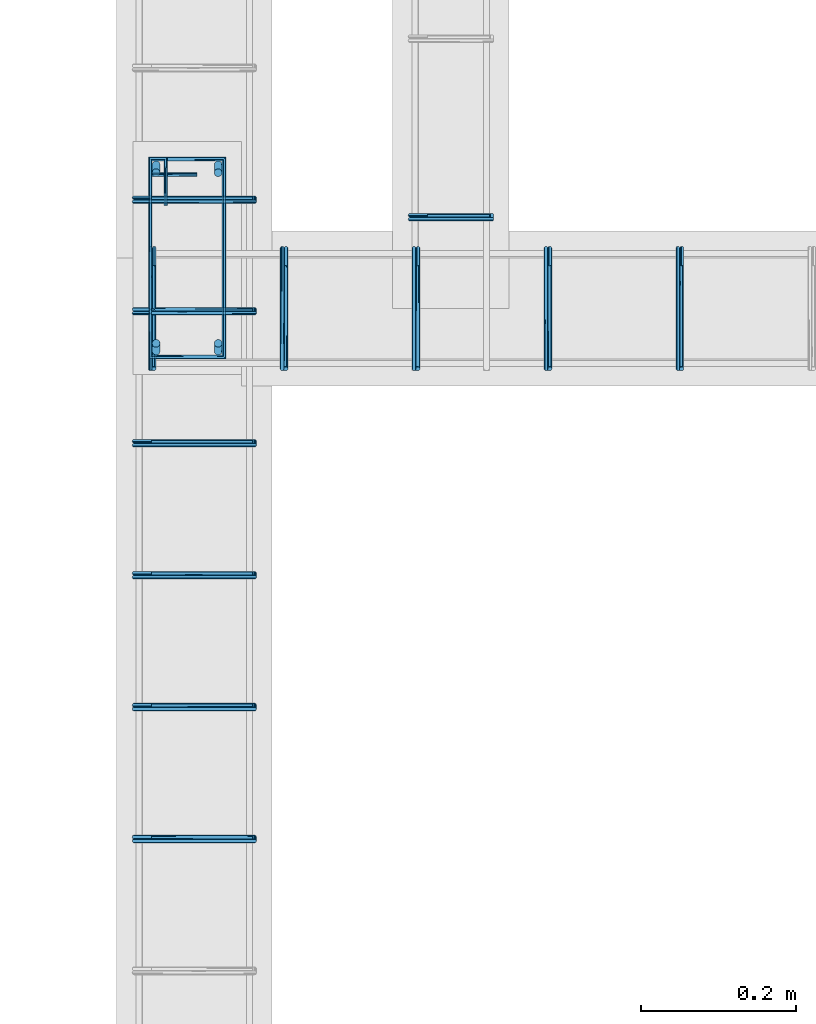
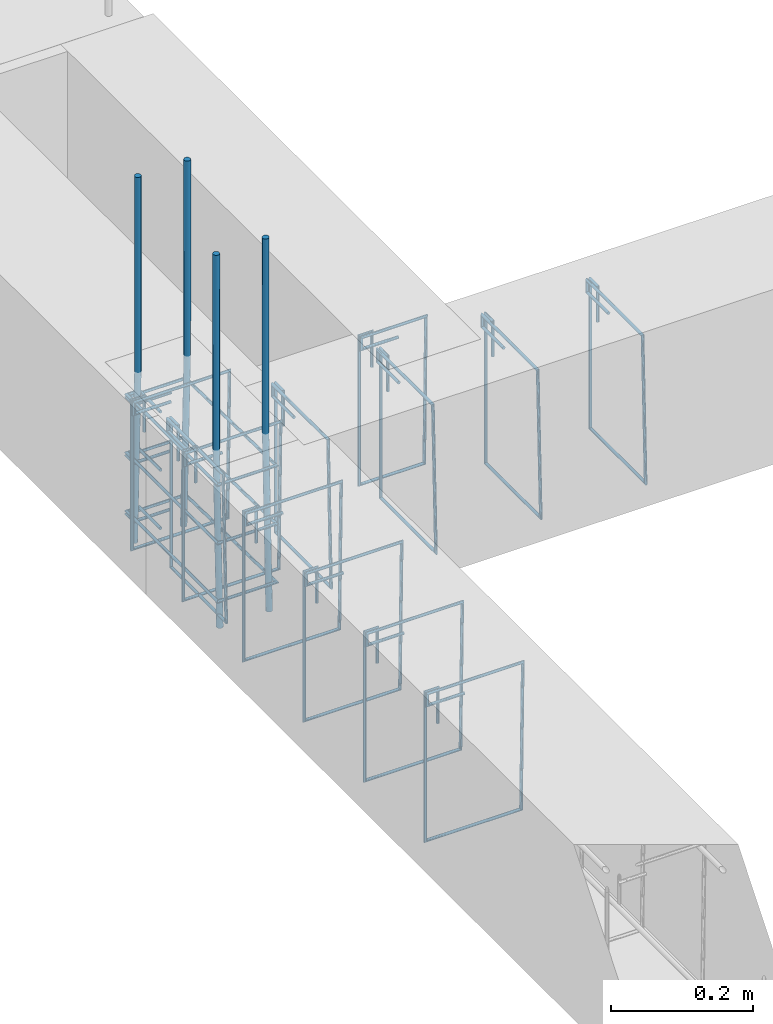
# One storey, part 136 of 150: 19 reinforcing bars.
"""IFC4 building model written with IfcOpenShell, lengths in centimetres."""

from ifc_helpers import new_model, entity, si_unit, derived_unit, frame, origin_with_axes, place, context, project, spatial, source, transform, mapped, element, save


model = new_model("IFC4")

# Units and contexts
model_context = context("Model", 3, precision=1e-05, world=origin_with_axes(), identifier="Body")
ifc_project = project(units=[si_unit("LENGTHUNIT", "METRE", prefix="CENTI"), si_unit("VOLUMEUNIT", "CUBIC_METRE"), si_unit("AREAUNIT", "SQUARE_METRE"), si_unit("POWERUNIT", "WATT"), si_unit("LUMINOUSFLUXUNIT", "LUMEN"), si_unit("ELECTRICCURRENTUNIT", "AMPERE"), si_unit("PRESSUREUNIT", "PASCAL", prefix="KILO"), si_unit("MASSUNIT", "GRAM", prefix="KILO"), si_unit("PLANEANGLEUNIT", "RADIAN"), derived_unit("VOLUMETRICFLOWRATEUNIT", [(si_unit("LENGTHUNIT", "METRE"), 3), (si_unit("TIMEUNIT", "SECOND"), -1)])], contexts=[model_context])

# Site, building, storey
site_placement = place(None, frame((-4000.0, 0.0, 0.0), z_axis=(0.0, 0.0, 1.0), x_axis=(1.0, 0.0, 0.0)))
site = spatial("IfcSite", under=ifc_project, at=site_placement, Name="PADRÃO")
building_placement = place(site_placement, frame((0.0, 0.0, -14.0)))
building = spatial("IfcBuilding", under=site, at=building_placement, Name="CRECHE PRÉ-ESCOLA TIPO 2")
placement = place(building_placement, origin_with_axes())
storey_placement = place(placement, frame((0.0, 0.0, 30.0), z_axis=(0.0, 0.0, 1.0), x_axis=(1.0, 0.0, 0.0)))
storey = spatial("IfcBuildingStorey", under=building, at=storey_placement, Name="VIGA BALDRAME", CompositionType="ELEMENT", Elevation=16.0)

# Reinforcing bars
shared_shape_1 = source(origin_with_axes(), model_context, "Body", "AdvancedSweptSolid", [
    entity("IfcSweptDiskSolid", entity("IfcCompositeCurve", [entity("IfcCompositeCurveSegment", "CONTINUOUS", True, entity("IfcPolyline", [entity("IfcCartesianPoint", [4.25, 21.75, 0.0]), entity("IfcCartesianPoint", [4.25, 27.75, 0.0])])), entity("IfcCompositeCurveSegment", "CONTINUOUS", True, entity("IfcPolyline", [entity("IfcCartesianPoint", [4.25, 27.75, 0.0]), entity("IfcCartesianPoint", [2.25, 27.75, 0.0])])), entity("IfcCompositeCurveSegment", "CONTINUOUS", True, entity("IfcPolyline", [entity("IfcCartesianPoint", [2.25, 27.75, 0.0]), entity("IfcCartesianPoint", [2.25, 2.25, 0.0])])), entity("IfcCompositeCurveSegment", "CONTINUOUS", True, entity("IfcPolyline", [entity("IfcCartesianPoint", [2.25, 2.25, 0.0]), entity("IfcCartesianPoint", [11.75, 2.25, 0.0])])), entity("IfcCompositeCurveSegment", "CONTINUOUS", True, entity("IfcPolyline", [entity("IfcCartesianPoint", [11.75, 2.25, 0.0]), entity("IfcCartesianPoint", [11.75, 27.75, -0.5])])), entity("IfcCompositeCurveSegment", "CONTINUOUS", True, entity("IfcPolyline", [entity("IfcCartesianPoint", [11.75, 27.75, -0.5]), entity("IfcCartesianPoint", [2.25, 27.75, -0.5])])), entity("IfcCompositeCurveSegment", "CONTINUOUS", True, entity("IfcPolyline", [entity("IfcCartesianPoint", [2.25, 27.75, -0.5]), entity("IfcCartesianPoint", [2.25, 25.75, -0.5])])), entity("IfcCompositeCurveSegment", "CONTINUOUS", True, entity("IfcPolyline", [entity("IfcCartesianPoint", [2.25, 25.75, -0.5]), entity("IfcCartesianPoint", [8.25, 25.75, -0.5])]))], False), 0.25),
])
for number, where, z_axis, x_axis, name in (
    (1, (3131.5, 3976.51, -25.0), (0.0, 0.0, 1.0), (1.0, 0.0, 0.0), "P27 - Estribo"),
    (2, (3131.5, 3976.51, -15.0), (0.0, 0.0, 1.0), (1.0, 0.0, 0.0), "P27 - Estribo"),
    (3, (3131.5, 3976.51, -5.0), (0.0, 0.0, 1.0), (1.0, 0.0, 0.0), "P27 - Estribo"),
):
    element("IfcReinforcingBar", number, at=place(storey_placement, frame(where, z_axis=z_axis, x_axis=x_axis)), inside=storey, Name=name, BarLength=0.0, CrossSectionArea=1.9634954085e-05, NominalDiameter=0.5, PredefinedType="MAIN", context=model_context, shape_type="MappedRepresentation", body=[
        mapped(shared_shape_1, transform((0.0, 0.0, 0.0), scale=1.0)),
    ])
shared_shape_2 = source(origin_with_axes(), model_context, "Body", "AdvancedSweptSolid", [
    entity("IfcSweptDiskSolid", entity("IfcCompositeCurve", [entity("IfcCompositeCurveSegment", "CONTINUOUS", True, entity("IfcPolyline", [entity("IfcCartesianPoint", [2.0, -6.0, 0.0]), entity("IfcCartesianPoint", [2.0, 0.0, 0.0])])), entity("IfcCompositeCurveSegment", "CONTINUOUS", True, entity("IfcPolyline", [entity("IfcCartesianPoint", [2.0, 0.0, 0.0]), entity("IfcCartesianPoint", [0.0, 0.0, 0.0])])), entity("IfcCompositeCurveSegment", "CONTINUOUS", True, entity("IfcPolyline", [entity("IfcCartesianPoint", [0.0, 0.0, 0.0]), entity("IfcCartesianPoint", [0.0, -25.5, 0.0])])), entity("IfcCompositeCurveSegment", "CONTINUOUS", True, entity("IfcPolyline", [entity("IfcCartesianPoint", [0.0, -25.5, 0.0]), entity("IfcCartesianPoint", [10.5, -25.5, 0.0])])), entity("IfcCompositeCurveSegment", "CONTINUOUS", True, entity("IfcPolyline", [entity("IfcCartesianPoint", [10.5, -25.5, 0.0]), entity("IfcCartesianPoint", [10.5, 0.0, 0.5])])), entity("IfcCompositeCurveSegment", "CONTINUOUS", True, entity("IfcPolyline", [entity("IfcCartesianPoint", [10.5, 0.0, 0.5]), entity("IfcCartesianPoint", [0.0, 0.0, 0.5])])), entity("IfcCompositeCurveSegment", "CONTINUOUS", True, entity("IfcPolyline", [entity("IfcCartesianPoint", [0.0, 0.0, 0.5]), entity("IfcCartesianPoint", [0.0, -2.0, 0.5])])), entity("IfcCompositeCurveSegment", "CONTINUOUS", True, entity("IfcPolyline", [entity("IfcCartesianPoint", [0.0, -2.0, 0.5]), entity("IfcCartesianPoint", [6.0, -2.0, 0.5])]))], False), 0.25),
])
reinforcing_bar_1_placement = place(storey_placement, frame((3167.25, 3997.015, -2.25), z_axis=(0.0, -1.0, 0.0), x_axis=(1.0, 0.0, 0.0)))
element("IfcReinforcingBar", 4, at=reinforcing_bar_1_placement, inside=storey, Name="V222 - Estribo", BarLength=0.0, CrossSectionArea=1.9634954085e-05, NominalDiameter=0.5, PredefinedType="MAIN", context=model_context, shape_type="MappedRepresentation", body=[
    mapped(shared_shape_2, transform((0.0, 0.0, 0.0), scale=1.0)),
])
shared_shape_3 = source(origin_with_axes(), model_context, "Body", "AdvancedSweptSolid", [
    entity("IfcSweptDiskSolid", entity("IfcCompositeCurve", [entity("IfcCompositeCurveSegment", "CONTINUOUS", True, entity("IfcPolyline", [entity("IfcCartesianPoint", [2.0, -6.0, 0.0]), entity("IfcCartesianPoint", [2.0, 0.0, 0.0])])), entity("IfcCompositeCurveSegment", "CONTINUOUS", True, entity("IfcPolyline", [entity("IfcCartesianPoint", [2.0, 0.0, 0.0]), entity("IfcCartesianPoint", [0.0, 0.0, 0.0])])), entity("IfcCompositeCurveSegment", "CONTINUOUS", True, entity("IfcPolyline", [entity("IfcCartesianPoint", [0.0, 0.0, 0.0]), entity("IfcCartesianPoint", [0.0, -25.5, 0.0])])), entity("IfcCompositeCurveSegment", "CONTINUOUS", True, entity("IfcPolyline", [entity("IfcCartesianPoint", [0.0, -25.5, 0.0]), entity("IfcCartesianPoint", [15.5, -25.5, 0.0])])), entity("IfcCompositeCurveSegment", "CONTINUOUS", True, entity("IfcPolyline", [entity("IfcCartesianPoint", [15.5, -25.5, 0.0]), entity("IfcCartesianPoint", [15.5, 0.0, 0.5])])), entity("IfcCompositeCurveSegment", "CONTINUOUS", True, entity("IfcPolyline", [entity("IfcCartesianPoint", [15.5, 0.0, 0.5]), entity("IfcCartesianPoint", [0.0, 0.0, 0.5])])), entity("IfcCompositeCurveSegment", "CONTINUOUS", True, entity("IfcPolyline", [entity("IfcCartesianPoint", [0.0, 0.0, 0.5]), entity("IfcCartesianPoint", [0.0, -2.0, 0.5])])), entity("IfcCompositeCurveSegment", "CONTINUOUS", True, entity("IfcPolyline", [entity("IfcCartesianPoint", [0.0, -2.0, 0.5]), entity("IfcCartesianPoint", [6.0, -2.0, 0.5])]))], False), 0.25),
])
for number, where, z_axis, x_axis, name in (
    (5, (3131.68, 3916.885, -2.25), (0.0, -1.0, 0.0), (1.0, 0.0, 0.0), "V221 - Estribo"),
    (6, (3131.68, 3933.885, -2.25), (0.0, -1.0, 0.0), (1.0, 0.0, 0.0), "V221 - Estribo"),
    (7, (3131.68, 3950.885, -2.25), (0.0, -1.0, 0.0), (1.0, 0.0, 0.0), "V221 - Estribo"),
    (8, (3131.68, 3967.885, -2.25), (0.0, -1.0, 0.0), (1.0, 0.0, 0.0), "V221 - Estribo"),
    (9, (3131.68, 3984.885, -2.25), (0.0, -1.0, 0.0), (1.0, 0.0, 0.0), "V221 - Estribo"),
):
    element("IfcReinforcingBar", number, at=place(storey_placement, frame(where, z_axis=z_axis, x_axis=x_axis)), inside=storey, Name=name, BarLength=0.0, CrossSectionArea=1.9634954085e-05, NominalDiameter=0.5, PredefinedType="MAIN", context=model_context, shape_type="MappedRepresentation", body=[
        mapped(shared_shape_3, transform((0.0, 0.0, 0.0), scale=1.0)),
    ])
shared_shape_4 = source(origin_with_axes(), model_context, "Body", "AdvancedSweptSolid", [
    entity("IfcSweptDiskSolid", entity("IfcCompositeCurve", [entity("IfcCompositeCurveSegment", "CONTINUOUS", True, entity("IfcPolyline", [entity("IfcCartesianPoint", [2.0, -6.0, 0.0]), entity("IfcCartesianPoint", [2.0, 0.0, 0.0])])), entity("IfcCompositeCurveSegment", "CONTINUOUS", True, entity("IfcPolyline", [entity("IfcCartesianPoint", [2.0, 0.0, 0.0]), entity("IfcCartesianPoint", [0.0, 0.0, 0.0])])), entity("IfcCompositeCurveSegment", "CONTINUOUS", True, entity("IfcPolyline", [entity("IfcCartesianPoint", [0.0, 0.0, 0.0]), entity("IfcCartesianPoint", [0.0, -25.5, 0.0])])), entity("IfcCompositeCurveSegment", "CONTINUOUS", True, entity("IfcPolyline", [entity("IfcCartesianPoint", [0.0, -25.5, 0.0]), entity("IfcCartesianPoint", [15.5, -25.5, 0.0])])), entity("IfcCompositeCurveSegment", "CONTINUOUS", True, entity("IfcPolyline", [entity("IfcCartesianPoint", [15.5, -25.5, 0.0]), entity("IfcCartesianPoint", [15.5, 0.0, 0.5])])), entity("IfcCompositeCurveSegment", "CONTINUOUS", True, entity("IfcPolyline", [entity("IfcCartesianPoint", [15.5, 0.0, 0.5]), entity("IfcCartesianPoint", [0.0, 0.0, 0.5])])), entity("IfcCompositeCurveSegment", "CONTINUOUS", True, entity("IfcPolyline", [entity("IfcCartesianPoint", [0.0, 0.0, 0.5]), entity("IfcCartesianPoint", [0.0, -2.0, 0.5])])), entity("IfcCompositeCurveSegment", "CONTINUOUS", True, entity("IfcPolyline", [entity("IfcCartesianPoint", [0.0, -2.0, 0.5]), entity("IfcCartesianPoint", [6.0, -2.0, 0.5])]))], False), 0.25),
])
reinforcing_bar_2_placement = place(storey_placement, frame((3131.68, 3999.265, -2.25), z_axis=(0.0, -1.0, 0.0), x_axis=(1.0, 0.0, 0.0)))
element("IfcReinforcingBar", 10, at=reinforcing_bar_2_placement, inside=storey, Name="V221 - Estribo", BarLength=0.0, CrossSectionArea=1.9634954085e-05, NominalDiameter=0.5, PredefinedType="MAIN", context=model_context, shape_type="MappedRepresentation", body=[
    mapped(shared_shape_4, transform((0.0, 0.0, 0.0), scale=1.0)),
])
shared_shape_5 = source(origin_with_axes(), model_context, "Body", "AdvancedSweptSolid", [
    entity("IfcSweptDiskSolid", entity("IfcCompositeCurve", [entity("IfcCompositeCurveSegment", "CONTINUOUS", True, entity("IfcPolyline", [entity("IfcCartesianPoint", [2.0, -6.0, 0.0]), entity("IfcCartesianPoint", [2.0, 0.0, 0.0])])), entity("IfcCompositeCurveSegment", "CONTINUOUS", True, entity("IfcPolyline", [entity("IfcCartesianPoint", [2.0, 0.0, 0.0]), entity("IfcCartesianPoint", [0.0, 0.0, 0.0])])), entity("IfcCompositeCurveSegment", "CONTINUOUS", True, entity("IfcPolyline", [entity("IfcCartesianPoint", [0.0, 0.0, 0.0]), entity("IfcCartesianPoint", [0.0, -25.5, 0.0])])), entity("IfcCompositeCurveSegment", "CONTINUOUS", True, entity("IfcPolyline", [entity("IfcCartesianPoint", [0.0, -25.5, 0.0]), entity("IfcCartesianPoint", [15.5, -25.5, 0.0])])), entity("IfcCompositeCurveSegment", "CONTINUOUS", True, entity("IfcPolyline", [entity("IfcCartesianPoint", [15.5, -25.5, 0.0]), entity("IfcCartesianPoint", [15.5, 0.0, 0.5])])), entity("IfcCompositeCurveSegment", "CONTINUOUS", True, entity("IfcPolyline", [entity("IfcCartesianPoint", [15.5, 0.0, 0.5]), entity("IfcCartesianPoint", [0.0, 0.0, 0.5])])), entity("IfcCompositeCurveSegment", "CONTINUOUS", True, entity("IfcPolyline", [entity("IfcCartesianPoint", [0.0, 0.0, 0.5]), entity("IfcCartesianPoint", [0.0, -2.0, 0.5])])), entity("IfcCompositeCurveSegment", "CONTINUOUS", True, entity("IfcPolyline", [entity("IfcCartesianPoint", [0.0, -2.0, 0.5]), entity("IfcCartesianPoint", [6.0, -2.0, 0.5])]))], False), 0.25),
])
for number, where, z_axis, x_axis, name in (
    (11, (3202.25, 3992.76, -2.25), (-1.0, 0.0, 0.0), (0.0, -1.0, 0.0), "V107 - Estribo"),
    (12, (3168.25, 3992.76, -2.25), (-1.0, 0.0, 0.0), (0.0, -1.0, 0.0), "V107 - Estribo"),
    (13, (3151.25, 3992.76, -2.25), (-1.0, 0.0, 0.0), (0.0, -1.0, 0.0), "V107 - Estribo"),
    (14, (3134.25, 3992.76, -2.25), (-1.0, 0.0, 0.0), (0.0, -1.0, 0.0), "V107 - Estribo"),
    (15, (3185.25, 3992.76, -2.25), (-1.0, 0.0, 0.0), (0.0, -1.0, 0.0), "V107 - Estribo"),
):
    element("IfcReinforcingBar", number, at=place(storey_placement, frame(where, z_axis=z_axis, x_axis=x_axis)), inside=storey, Name=name, BarLength=0.0, CrossSectionArea=1.9634954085e-05, NominalDiameter=0.5, PredefinedType="MAIN", context=model_context, shape_type="MappedRepresentation", body=[
        mapped(shared_shape_5, transform((0.0, 0.0, 0.0), scale=1.0)),
    ])
for number, where, z_axis, x_axis, name in (
    (16, (3134.5, 4003.00986122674, 33.3573001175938), (0.0, 0.0, 1.0), (1.0, 0.0, 0.0), "P27 - Longitudinal"),
    (17, (3142.5, 4003.00986122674, 33.3573001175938), (0.0, 0.0, 1.0), (1.0, 0.0, 0.0), "P27 - Longitudinal"),
):
    element("IfcReinforcingBar", number, at=place(storey_placement, frame(where, z_axis=z_axis, x_axis=x_axis)), inside=storey, Name=name, BarLength=0.0, CrossSectionArea=7.853981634e-05, NominalDiameter=1.0, PredefinedType="MAIN", context=model_context, shape_type="AdvancedSweptSolid", body=[
        entity("IfcSweptDiskSolid", entity("IfcCompositeCurve", [entity("IfcCompositeCurveSegment", "CONTINUOUS", True, entity("IfcPolyline", [entity("IfcCartesianPoint", [0.0, 0.500138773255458, -63.3573001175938]), entity("IfcCartesianPoint", [0.0, -0.499861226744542, -33.3573001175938])])), entity("IfcCompositeCurveSegment", "CONTINUOUS", True, entity("IfcPolyline", [entity("IfcCartesianPoint", [0.0, -0.499861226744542, -33.3573001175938]), entity("IfcCartesianPoint", [0.0, -0.499861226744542, 0.0])]))], False), 0.5),
    ])
for number, where, z_axis, x_axis, name in (
    (18, (3142.5, 3980.01013877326, 33.3573001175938), (0.0, 0.0, 1.0), (1.0, 0.0, 0.0), "P27 - Longitudinal"),
    (19, (3134.5, 3980.01013877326, 33.3573001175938), (0.0, 0.0, 1.0), (1.0, 0.0, 0.0), "P27 - Longitudinal"),
):
    element("IfcReinforcingBar", number, at=place(storey_placement, frame(where, z_axis=z_axis, x_axis=x_axis)), inside=storey, Name=name, BarLength=0.0, CrossSectionArea=7.853981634e-05, NominalDiameter=1.0, PredefinedType="MAIN", context=model_context, shape_type="AdvancedSweptSolid", body=[
        entity("IfcSweptDiskSolid", entity("IfcCompositeCurve", [entity("IfcCompositeCurveSegment", "CONTINUOUS", True, entity("IfcPolyline", [entity("IfcCartesianPoint", [0.0, -0.500138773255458, -63.3573001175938]), entity("IfcCartesianPoint", [0.0, 0.499861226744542, -33.3573001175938])])), entity("IfcCompositeCurveSegment", "CONTINUOUS", True, entity("IfcPolyline", [entity("IfcCartesianPoint", [0.0, 0.499861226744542, -33.3573001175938]), entity("IfcCartesianPoint", [0.0, 0.499861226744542, 0.0])]))], False), 0.5),
    ])

save(model, "model.ifc")
